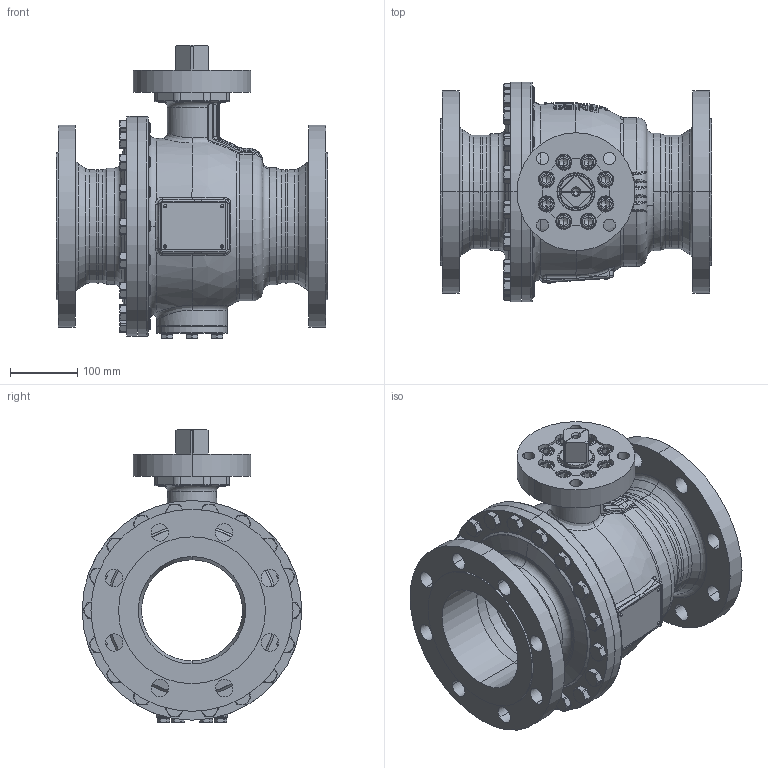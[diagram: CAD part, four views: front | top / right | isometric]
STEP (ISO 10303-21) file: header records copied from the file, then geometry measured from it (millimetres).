
FILE_DESCRIPTION((''),'2;1');
FILE_NAME('KHI-F_150_PN040-F14-4_SW0001','2026-02-05T10:50:28',('fischerkl'),('KLINGER'),'CREO PARAMETRIC BY PTC INC, 2023014','CREO PARAMETRIC BY PTC INC, 2023014','');
FILE_SCHEMA(('CONFIG_CONTROL_DESIGN'));
Products named in the file (1): KHI-F_150_PN040-F14-4_SW0001
Bounding box: 403 x 326 x 436.2 mm (x, y, z)
Volume: 8745028.6 mm3; surface area: 1603035 mm2
Topology: 1 solids, 4 shells, 3723 faces, 9554 edges, 5962 vertices
Faces by surface type: plane 2284, cylinder 674, cone 366, torus 258, bspline 113, sphere 28
Entity records: 144500 total; most frequent: CARTESIAN_POINT 56348, ORIENTED_EDGE 19056, DIRECTION 17426, EDGE_CURVE 9528, AXIS2_PLACEMENT_3D 6147, VERTEX_POINT 5962, VECTOR 5132, LINE 5132
